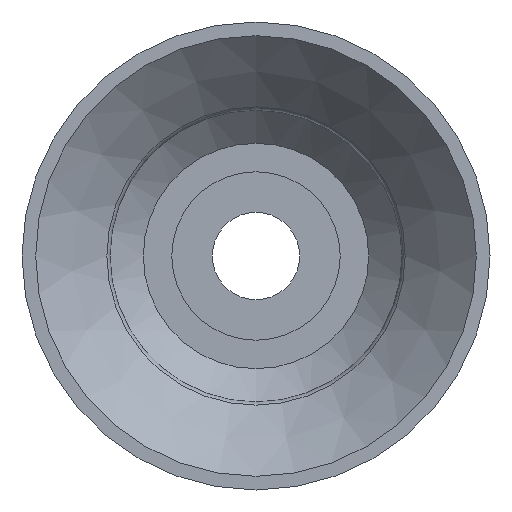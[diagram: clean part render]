
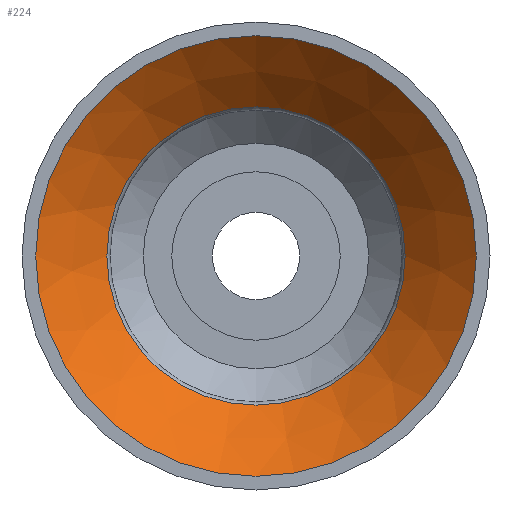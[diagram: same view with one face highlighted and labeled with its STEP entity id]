
A CAD part, front view. The second image highlights one B-rep face of the part: STEP entity #224.
In plain terms, the highlighted conical face has half-angle 44.7 degrees and reference radius 19.3 mm.
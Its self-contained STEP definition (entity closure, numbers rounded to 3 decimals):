
#19 = FACE_BOUND ( 'NONE', #94, .T. ) ;
#58 = DIRECTION ( 'NONE',  ( 0., 1., 0. ) ) ;
#63 = DIRECTION ( 'NONE',  ( 0., 0., 1. ) ) ;
#68 = CARTESIAN_POINT ( 'NONE',  ( 0., 0., 19.3 ) ) ;
#86 = EDGE_CURVE ( 'NONE', #279, #279, #323, .T. ) ;
#94 = EDGE_LOOP ( 'NONE', ( #195 ) ) ;
#117 = ORIENTED_EDGE ( 'NONE', *, *, #220, .F. ) ;
#149 = CARTESIAN_POINT ( 'NONE',  ( 0., 0., 0. ) ) ;
#192 = EDGE_LOOP ( 'NONE', ( #117 ) ) ;
#195 = ORIENTED_EDGE ( 'NONE', *, *, #86, .T. ) ;
#202 = AXIS2_PLACEMENT_3D ( 'NONE', #341, #204, #253 ) ;
#204 = DIRECTION ( 'NONE',  ( 0., 1., 0. ) ) ;
#211 = CARTESIAN_POINT ( 'NONE',  ( 0., 0., 0. ) ) ;
#220 = EDGE_CURVE ( 'NONE', #265, #265, #327, .T. ) ;
#224 = ADVANCED_FACE ( 'NONE', ( #19, #307 ), #250, .F. ) ;
#250 = CONICAL_SURFACE ( 'NONE', #318, 19.3, 0.78 ) ;
#253 = DIRECTION ( 'NONE',  ( 0., 0., 1. ) ) ;
#261 = DIRECTION ( 'NONE',  ( 0., -1., 0. ) ) ;
#265 = VERTEX_POINT ( 'NONE', #68 ) ;
#279 = VERTEX_POINT ( 'NONE', #297 ) ;
#282 = AXIS2_PLACEMENT_3D ( 'NONE', #211, #58, #63 ) ;
#297 = CARTESIAN_POINT ( 'NONE',  ( 0., 6.297, 13.069 ) ) ;
#307 = FACE_OUTER_BOUND ( 'NONE', #192, .T. ) ;
#318 = AXIS2_PLACEMENT_3D ( 'NONE', #149, #261, #348 ) ;
#323 = CIRCLE ( 'NONE', #202, 13.069 ) ;
#327 = CIRCLE ( 'NONE', #282, 19.3 ) ;
#341 = CARTESIAN_POINT ( 'NONE',  ( 0., 6.297, 0. ) ) ;
#348 = DIRECTION ( 'NONE',  ( 0., 0., -1. ) ) ;
